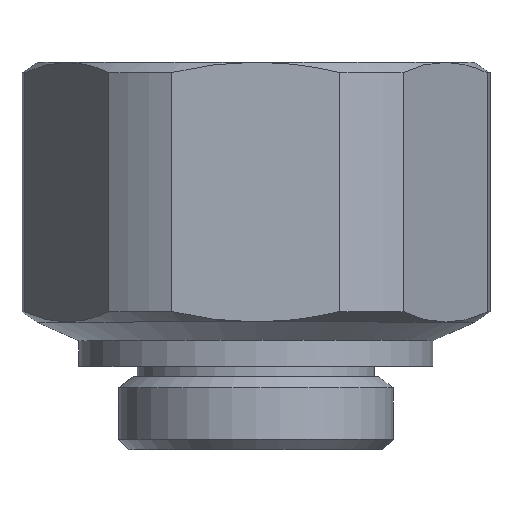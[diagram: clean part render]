
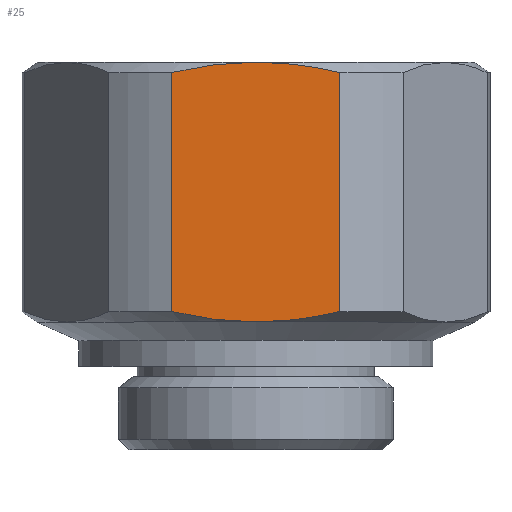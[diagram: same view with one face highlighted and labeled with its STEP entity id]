
A CAD part, top view. The second image highlights one B-rep face of the part: STEP entity #25.
In plain terms, the highlighted planar face has unit normal (0, 0, 1).
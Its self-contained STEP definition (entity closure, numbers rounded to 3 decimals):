
#25=ADVANCED_FACE('',(#86),#877,.T.);
#86=FACE_OUTER_BOUND('',#147,.T.);
#147=EDGE_LOOP('',(#248,#249,#250,#251,#252,#253));
#248=ORIENTED_EDGE('',*,*,#530,.T.);
#249=ORIENTED_EDGE('',*,*,#531,.T.);
#250=ORIENTED_EDGE('',*,*,#514,.F.);
#251=ORIENTED_EDGE('',*,*,#492,.F.);
#252=ORIENTED_EDGE('',*,*,#491,.F.);
#253=ORIENTED_EDGE('',*,*,#515,.T.);
#491=EDGE_CURVE('',#816,#817,#746,.T.);
#492=EDGE_CURVE('',#817,#815,#747,.T.);
#514=EDGE_CURVE('',#815,#833,#609,.T.);
#515=EDGE_CURVE('',#816,#834,#756,.T.);
#530=EDGE_CURVE('',#834,#841,#764,.T.);
#531=EDGE_CURVE('',#841,#833,#765,.T.);
#609=(
BOUNDED_CURVE()
B_SPLINE_CURVE(1,(#1928,#1929),.UNSPECIFIED.,.F.,.F.)
B_SPLINE_CURVE_WITH_KNOTS((2,2),(0.5,11.983),
 .UNSPECIFIED.)
CURVE()
GEOMETRIC_REPRESENTATION_ITEM()
RATIONAL_B_SPLINE_CURVE((1.,1.))
REPRESENTATION_ITEM('')
);
#746=B_SPLINE_CURVE_WITH_KNOTS('',3,(#1831,#1832,#1833,#1834,#1835,#1836),
 .UNSPECIFIED.,.F.,.F.,(4,2,4),(0.,2.039,4.082),
 .UNSPECIFIED.);
#747=B_SPLINE_CURVE_WITH_KNOTS('',3,(#1837,#1838,#1839,#1840,#1841,#1842),
 .UNSPECIFIED.,.F.,.F.,(4,2,4),(4.082,6.124,8.163),
 .UNSPECIFIED.);
#756=B_SPLINE_CURVE_WITH_KNOTS('',1,(#1930,#1931),.UNSPECIFIED.,.F.,.F.,
(2,2),(0.5,11.983),.UNSPECIFIED.);
#764=B_SPLINE_CURVE_WITH_KNOTS('',3,(#1986,#1987,#1988,#1989,#1990,#1991),
 .UNSPECIFIED.,.F.,.F.,(4,2,4),(0.,2.039,4.082),
 .UNSPECIFIED.);
#765=B_SPLINE_CURVE_WITH_KNOTS('',3,(#1992,#1993,#1994,#1995,#1996,#1997),
 .UNSPECIFIED.,.F.,.F.,(4,2,4),(4.082,6.124,8.163),
 .UNSPECIFIED.);
#815=VERTEX_POINT('',#1691);
#816=VERTEX_POINT('',#1692);
#817=VERTEX_POINT('',#1693);
#833=VERTEX_POINT('',#1709);
#834=VERTEX_POINT('',#1710);
#841=VERTEX_POINT('',#1717);
#877=PLANE('',#1031);
#1031=AXIS2_PLACEMENT_3D('',#1324,#1132,$);
#1132=DIRECTION('',(0.,0.,1.));
#1324=CARTESIAN_POINT('',(2449.927,1277.854,10.5));
#1691=CARTESIAN_POINT('',(2449.927,1277.354,10.5));
#1692=CARTESIAN_POINT('',(2441.849,1277.354,10.5));
#1693=CARTESIAN_POINT('',(2445.888,1277.854,10.5));
#1709=CARTESIAN_POINT('',(2449.927,1265.872,10.5));
#1710=CARTESIAN_POINT('',(2441.849,1265.872,10.5));
#1717=CARTESIAN_POINT('',(2445.888,1265.372,10.5));
#1831=CARTESIAN_POINT('',(2441.849,1277.354,10.5));
#1832=CARTESIAN_POINT('',(2442.511,1277.513,10.5));
#1833=CARTESIAN_POINT('',(2443.178,1277.639,10.5));
#1834=CARTESIAN_POINT('',(2444.531,1277.81,10.5));
#1835=CARTESIAN_POINT('',(2445.206,1277.854,10.5));
#1836=CARTESIAN_POINT('',(2445.888,1277.854,10.5));
#1837=CARTESIAN_POINT('',(2445.888,1277.854,10.5));
#1838=CARTESIAN_POINT('',(2446.57,1277.854,10.5));
#1839=CARTESIAN_POINT('',(2447.245,1277.81,10.5));
#1840=CARTESIAN_POINT('',(2448.598,1277.639,10.5));
#1841=CARTESIAN_POINT('',(2449.265,1277.513,10.5));
#1842=CARTESIAN_POINT('',(2449.927,1277.354,10.5));
#1928=CARTESIAN_POINT('',(2449.927,1277.354,10.5));
#1929=CARTESIAN_POINT('',(2449.927,1265.872,10.5));
#1930=CARTESIAN_POINT('',(2441.849,1277.354,10.5));
#1931=CARTESIAN_POINT('',(2441.849,1265.872,10.5));
#1986=CARTESIAN_POINT('',(2441.849,1265.872,10.5));
#1987=CARTESIAN_POINT('',(2442.511,1265.713,10.5));
#1988=CARTESIAN_POINT('',(2443.178,1265.587,10.5));
#1989=CARTESIAN_POINT('',(2444.531,1265.416,10.5));
#1990=CARTESIAN_POINT('',(2445.206,1265.372,10.5));
#1991=CARTESIAN_POINT('',(2445.888,1265.372,10.5));
#1992=CARTESIAN_POINT('',(2445.888,1265.372,10.5));
#1993=CARTESIAN_POINT('',(2446.57,1265.372,10.5));
#1994=CARTESIAN_POINT('',(2447.245,1265.416,10.5));
#1995=CARTESIAN_POINT('',(2448.598,1265.587,10.5));
#1996=CARTESIAN_POINT('',(2449.265,1265.713,10.5));
#1997=CARTESIAN_POINT('',(2449.927,1265.872,10.5));
